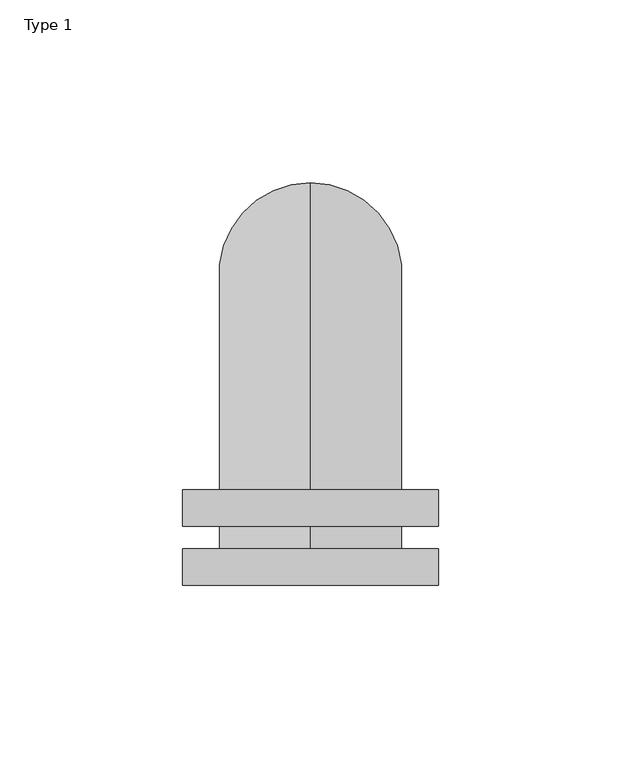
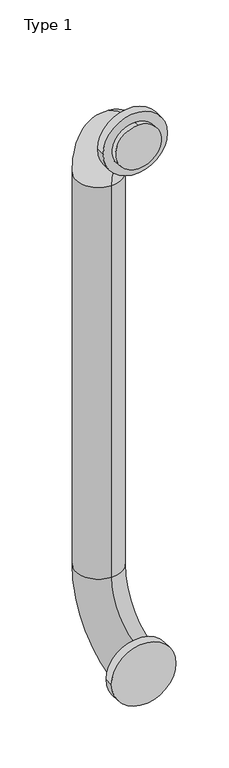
"""IFC4 building model written with IfcOpenShell, lengths in millimetres: proxy geometry, BIMHealth-Grab_Rail_Vertical-LOD2A-v1 : Type 1."""

from ifc_helpers import new_model, si_unit, point, frame, frame_2d, origin, place, context, project, spatial, circle_curve, ellipse_curve, trimmed, segment, composite_curve, outline, extrude, source, transform, mapped, element, save
from ifc_brep_helpers import plane_surface, cylinder_surface, revolved_surface, advanced_brep


def type_1_63a6e16b(model_context):
    return source(origin(), model_context, "Body", "SolidModel", [
        advanced_brep(
        [(125.0, 160.0, 1325.0), (125.0, 110.0, 1325.0), (125.0, 110.0, 875.0), (125.0, 160.0, 875.0), (125.0, 60.0, 1375.0), (125.0, 60.0, 1425.0), (125.0, 60.0, 825.0), (125.0, 60.0, 775.0)],
        [
            (0, 1, circle_curve(frame((125.0, 135.0, 1325.0), z_axis=(0.0, 0.0, -1.0), x_axis=(0.0, 1.0, 0.0)), 25.0)),
            (1, 2),
            (2, 3, circle_curve(frame((125.0, 135.0, 875.0), z_axis=(0.0, 0.0, 1.0), x_axis=(0.0, 1.0, 0.0)), 25.0)),
            (3, 0),
            (1, 0, circle_curve(frame((125.0, 135.0, 1325.0), z_axis=(0.0, 0.0, -1.0), x_axis=(0.0, 1.0, 0.0)), 25.0)),
            (3, 2, circle_curve(frame((125.0, 135.0, 875.0), z_axis=(0.0, 0.0, 1.0), x_axis=(0.0, 1.0, 0.0)), 25.0)),
            (4, 5, circle_curve(frame((125.0, 60.0, 1400.0), z_axis=(0.0, -1.0, 0.0), x_axis=(0.0, 0.0, 1.0)), 25.0)),
            (5, 4, circle_curve(frame((125.0, 60.0, 1400.0), z_axis=(0.0, -1.0, 0.0), x_axis=(0.0, 0.0, 1.0)), 25.0)),
            (0, 5, circle_curve(frame((125.0, 60.0, 1325.0), z_axis=(1.0, 0.0, 0.0), x_axis=(0.0, 0.0, 1.0)), 100.0)),
            (4, 1, circle_curve(frame((125.0, 60.0, 1325.0), z_axis=(-1.0, 0.0, 0.0), x_axis=(0.0, 0.0, 1.0)), 50.0)),
            (6, 7, circle_curve(frame((125.0, 60.0, 800.0), z_axis=(0.0, -1.0, 0.0), x_axis=(0.0, 0.0, -1.0)), 25.0)),
            (7, 6, circle_curve(frame((125.0, 60.0, 800.0), z_axis=(0.0, -1.0, 0.0), x_axis=(0.0, 0.0, -1.0)), 25.0)),
            (7, 3, circle_curve(frame((125.0, 60.0, 875.0), z_axis=(1.0, 0.0, 0.0), x_axis=(0.0, 1.0, 0.0)), 100.0)),
            (2, 6, circle_curve(frame((125.0, 60.0, 875.0), z_axis=(-1.0, 0.0, 0.0), x_axis=(0.0, 1.0, 0.0)), 50.0)),
        ],
        [
            cylinder_surface(frame((125.0, 135.0, 1325.0), z_axis=(0.0, 0.0, 1.0), x_axis=(0.0, 1.0, 0.0)), 25.0),
            plane_surface(frame((125.0, 60.0, 1400.0), z_axis=(0.0, -1.0, 0.0), x_axis=(1.0, 0.0, 0.0))),
            revolved_surface(trimmed(ellipse_curve(frame((125.0, 60.0, 1400.0), z_axis=(0.0, -1.0, 0.0), x_axis=(0.0, 0.0, 1.0)), 25.0, 25.0), [point((125.0, 60.0, 1375.0))], [point((125.0, 60.0, 1425.0))], True, "CARTESIAN"), (125.0, 60.0, 1325.0), (-1.0, 0.0, 0.0)),
            revolved_surface(trimmed(ellipse_curve(frame((125.0, 60.0, 1400.0), z_axis=(0.0, -1.0, 0.0), x_axis=(0.0, 0.0, 1.0)), 25.0, 25.0), [point((125.0, 60.0, 1425.0))], [point((125.0, 60.0, 1375.0))], True, "CARTESIAN"), (125.0, 60.0, 1325.0), (-1.0, 0.0, 0.0)),
            plane_surface(frame((125.0, 60.0, 800.0), z_axis=(0.0, -1.0, 0.0), x_axis=(1.0, 0.0, 0.0))),
            revolved_surface(trimmed(ellipse_curve(frame((125.0, 135.0, 875.0), z_axis=(0.0, 0.0, 1.0), x_axis=(0.0, 1.0, 0.0)), 25.0, 25.0), [point((125.0, 110.0, 875.0))], [point((125.0, 160.0, 875.0))], True, "CARTESIAN"), (125.0, 60.0, 875.0), (-1.0, 0.0, 0.0)),
            revolved_surface(trimmed(ellipse_curve(frame((125.0, 135.0, 875.0), z_axis=(0.0, 0.0, 1.0), x_axis=(0.0, 1.0, 0.0)), 25.0, 25.0), [point((125.0, 160.0, 875.0))], [point((125.0, 110.0, 875.0))], True, "CARTESIAN"), (125.0, 60.0, 875.0), (-1.0, 0.0, 0.0)),
        ],
        [
            (0, [[1, 2, 3, 4]]),
            (0, [[5, -4, 6, -2]]),
            (1, [[7, 8]]),
            (2, [[9, -7, 10, -1]]),
            (3, [[-10, -8, -9, -5]]),
            (4, [[11, 12]]),
            (5, [[13, -3, 14, -12]]),
            (6, [[-14, -6, -13, -11]]),
        ],
    ),
        extrude(outline(composite_curve([segment(trimmed(circle_curve(frame_2d((800.0, 125.0)), 35.0), [point((800.0, 160.0))], [point((800.0, 90.0))], False, "CARTESIAN"), True, "CONTINUOUS"), segment(trimmed(circle_curve(frame_2d((800.0, 125.0)), 35.0), [point((800.0, 90.0))], [point((800.0, 160.0))], False, "CARTESIAN"), True, "CONTINUOUS")], self_intersect=False)), frame((0.0, 50.0, 0.0), z_axis=(0.0, 1.0, 0.0), x_axis=(0.0, 0.0, 1.0)), (0.0, 0.0, 1.0), 10.0),
        extrude(outline(composite_curve([segment(trimmed(circle_curve(frame_2d((1400.0, 125.0)), 35.0), [point((1400.0, 160.0))], [point((1400.0, 90.0))], False, "CARTESIAN"), True, "CONTINUOUS"), segment(trimmed(circle_curve(frame_2d((1400.0, 125.0)), 35.0), [point((1400.0, 90.0))], [point((1400.0, 160.0))], False, "CARTESIAN"), True, "CONTINUOUS")], self_intersect=False)), frame((0.0, 66.0, 0.0), z_axis=(0.0, 1.0, 0.0), x_axis=(0.0, 0.0, 1.0)), (0.0, 0.0, 1.0), 10.0),
    ])


if __name__ == "__main__":
    model = new_model("IFC4")
    model_context = context("Model", 3, world=origin())
    ifc_project = project(units=[si_unit("LENGTHUNIT", "METRE", prefix="MILLI")], contexts=[model_context])
    site = spatial("IfcSite", under=ifc_project)
    building = spatial("IfcBuilding", under=site)
    placement = place(None, origin())
    type_1_shape = type_1_63a6e16b(model_context)
    element("IfcBuildingElementProxy", 1, Name="BIMHealth-Grab_Rail_Vertical-LOD2A-v1 : Type 1", ObjectType="BIMHealth-Grab_Rail_Vertical-LOD2A-v1 : Type 1", at=placement, inside=building, context=model_context, shape_type="MappedRepresentation", body=[
        mapped(type_1_shape, transform((0.0, 0.0, 0.0), x_axis=(1.0, 0.0, 0.0), y_axis=(0.0, 1.0, 0.0), z_axis=(0.0, 0.0, 1.0))),
    ])
    save(model, "model.ifc")
